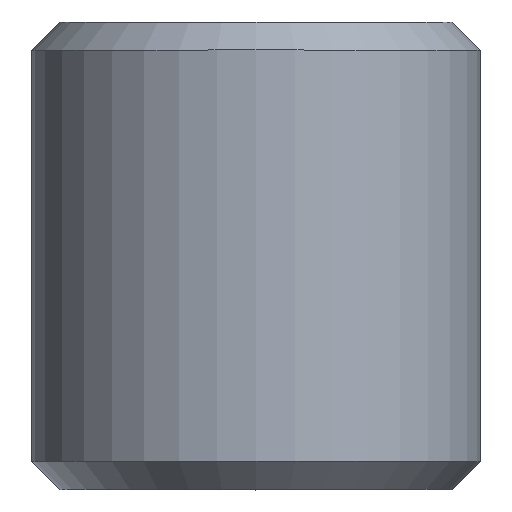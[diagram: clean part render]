
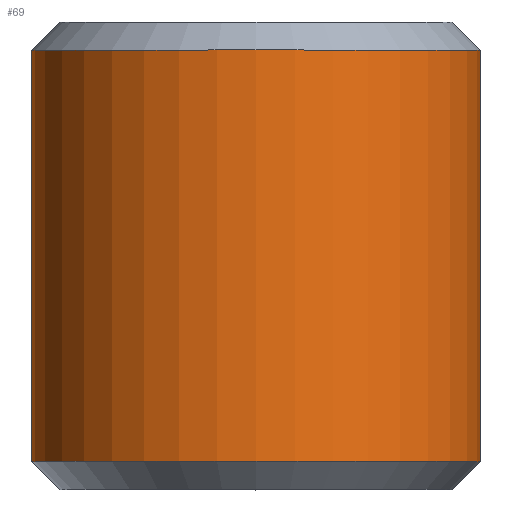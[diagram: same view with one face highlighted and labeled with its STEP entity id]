
A CAD part, top view. The second image highlights one B-rep face of the part: STEP entity #69.
In plain terms, the highlighted cylindrical face has radius 12 mm (diameter 24 mm), a full revolution.
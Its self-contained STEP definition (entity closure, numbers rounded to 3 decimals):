
#69=ADVANCED_FACE('',(#70),#100,.T.);
#70=FACE_BOUND('',#71,.T.);
#71=EDGE_LOOP('',(#72,#81,#88,#97,#99));
#72=ORIENTED_EDGE('',*,*,#73,.T.);
#73=EDGE_CURVE('',#74,#74,#76,.T.);
#74=VERTEX_POINT('',#75);
#75=CARTESIAN_POINT('',(0.,11.4,-12.0));
#76=CIRCLE('',#77,12.0);
#77=AXIS2_PLACEMENT_3D('',#78,#79,#80);
#78=CARTESIAN_POINT('',(0.0,11.4,0.0));
#79=DIRECTION('',(0.0,1.0,0.0));
#80=DIRECTION('',(0.0,0.0,-1.0));
#81=ORIENTED_EDGE('',*,*,#82,.T.);
#82=EDGE_CURVE('',#74,#83,#85,.F.);
#83=VERTEX_POINT('',#84);
#84=CARTESIAN_POINT('',(0.,33.4,-12.0));
#85=B_SPLINE_CURVE_WITH_KNOTS('',1,(#86,#87),.UNSPECIFIED.,.F.,.U.,(2,2),(-33.4,-11.4),.PIECEWISE_BEZIER_KNOTS.);
#86=CARTESIAN_POINT('',(0.,33.4,-12.0));
#87=CARTESIAN_POINT('',(0.,11.4,-12.0));
#88=ORIENTED_EDGE('',*,*,#89,.T.);
#89=EDGE_CURVE('',#83,#90,#92,.T.);
#90=VERTEX_POINT('',#91);
#91=CARTESIAN_POINT('',(0.,33.4,12.0));
#92=CIRCLE('',#93,12.0);
#93=AXIS2_PLACEMENT_3D('',#94,#95,#96);
#94=CARTESIAN_POINT('',(0.0,33.4,0.0));
#95=DIRECTION('',(0.0,-1.0,0.0));
#96=DIRECTION('',(0.0,0.0,1.0));
#97=ORIENTED_EDGE('',*,*,#98,.T.);
#98=EDGE_CURVE('',#90,#83,#92,.T.);
#99=ORIENTED_EDGE('',*,*,#82,.F.);
#100=CYLINDRICAL_SURFACE('',#101,12.0);
#101=AXIS2_PLACEMENT_3D('',#102,#103,#104);
#102=CARTESIAN_POINT('',(0.0,0.0,0.0));
#103=DIRECTION('',(0.0,-1.0,0.0));
#104=DIRECTION('',(0.0,0.0,-1.0));
